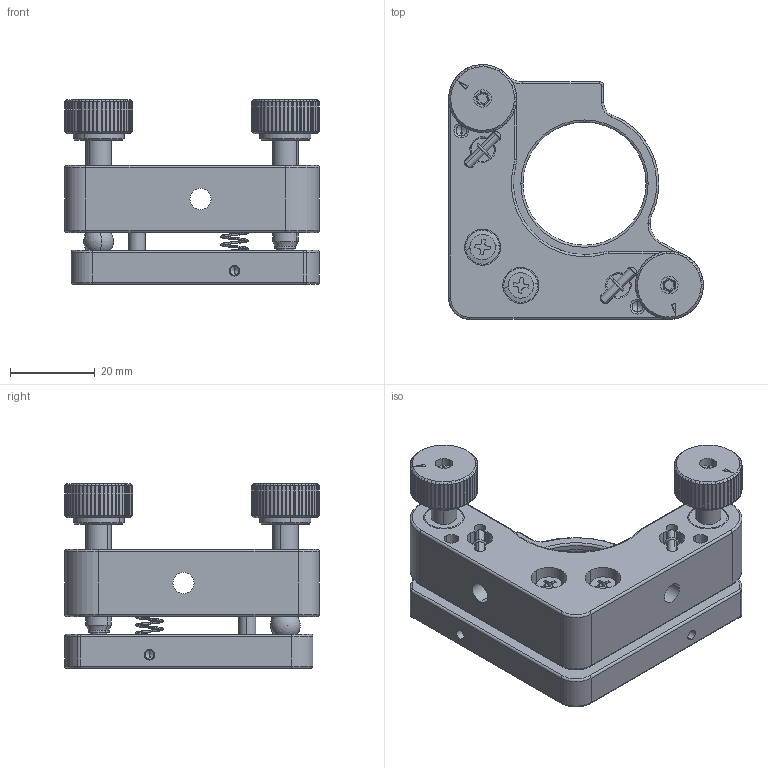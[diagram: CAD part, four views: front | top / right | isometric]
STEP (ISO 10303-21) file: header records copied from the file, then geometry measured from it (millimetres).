
FILE_DESCRIPTION (( 'STEP AP203' ), '1' );
FILE_NAME ('M-TNO-1.2L-HOX.STEP', '2020-08-27T08:23:44', ( '匠星' ), ( '' ), 'SwSTEP 2.0', 'SolidWorks 2019', '' );
FILE_SCHEMA (( 'CONFIG_CONTROL_DESIGN' ));
Length unit declared in the file: millimetre
Products named in the file (1): M-TNO-1.2L-HOX
Bounding box: 60 x 60 x 43.5 mm (x, y, z)
Surface area: 20434.9 mm2 (no closed solid volume)
Topology: 0 solids, 21 shells, 1005 faces, 2547 edges, 1607 vertices
Faces by surface type: cylinder 431, plane 394, torus 88, cone 64, sphere 22, bspline 6
Entity records: 35381 total; most frequent: CARTESIAN_POINT 11596, ORIENTED_EDGE 5006, DIRECTION 4964, EDGE_CURVE 2506, AXIS2_PLACEMENT_3D 1982, VERTEX_POINT 1600, EDGE_LOOP 1098, ADVANCED_FACE 1005
